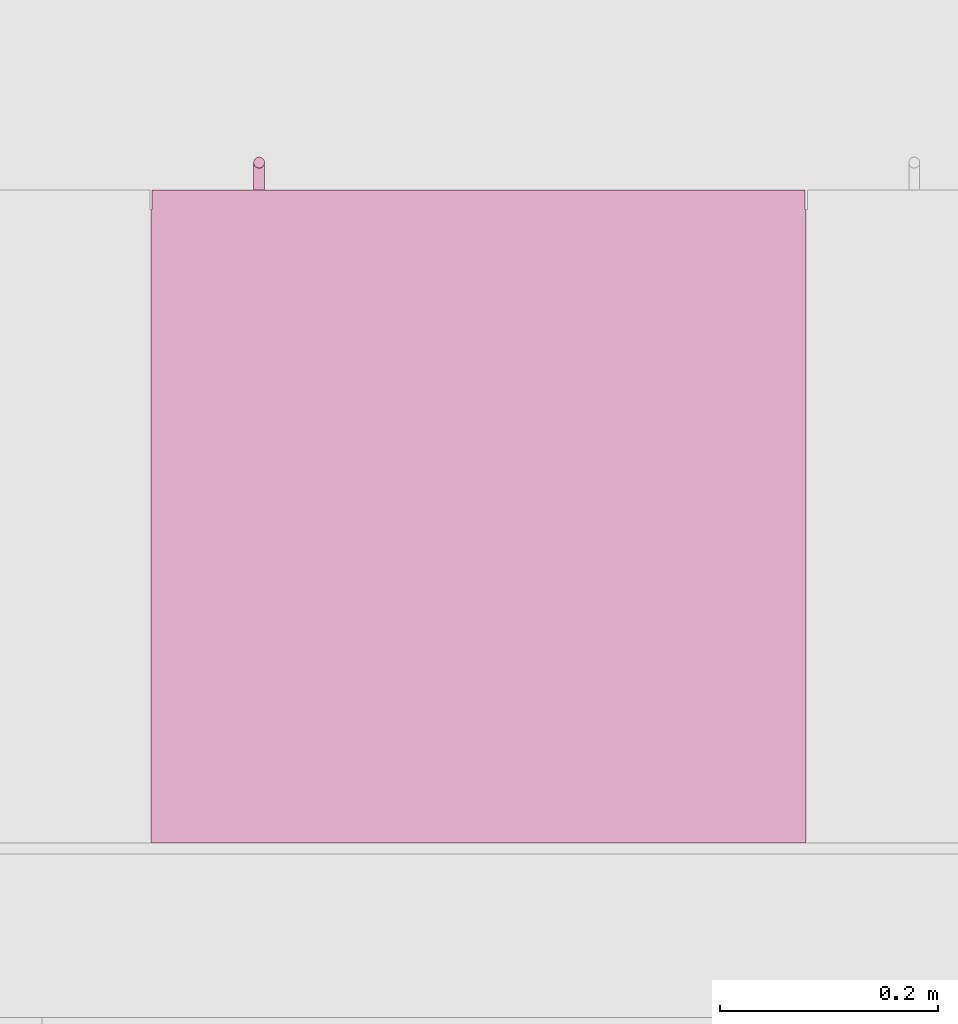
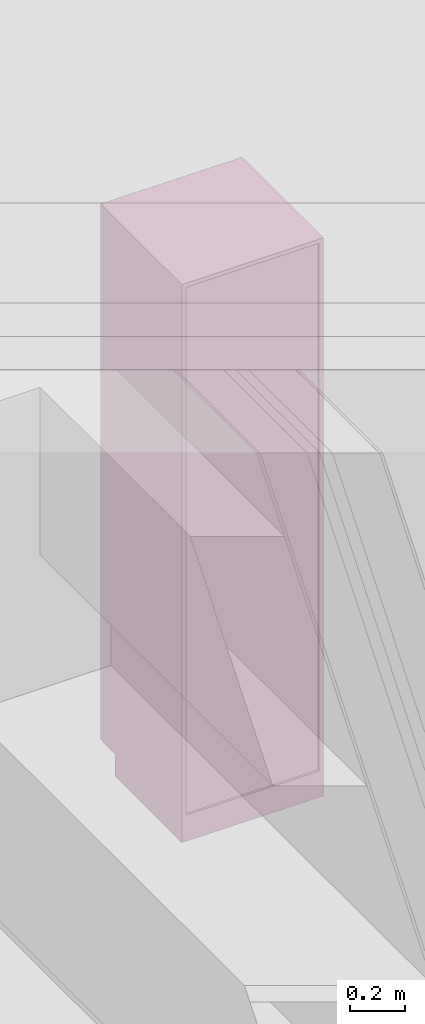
# One storey, part 31 of 36: 1 furniture element.
"""IFC4 building model written with IfcOpenShell, lengths in millimetres."""

import ifcopenshell
import ifcopenshell.guid

model = None  # the IFC model being written
_history = None  # IfcOwnerHistory: only IFC2X3 demands one
_inside = {}  # id of a spatial element -> (the spatial element, [elements in it])
_under = {}  # id of a project, library or spatial element -> (it, [spatial elements below it])
_declared = {}  # id of a project -> (the project, [libraries it declares])
_typed = {}  # id of a type object -> (the type object, [elements of that type])
_made_of = {}  # id of a material, layer set ... -> (it, [elements and type objects made of it])


def new_model(schema):
    """Start an empty IFC model of exactly this schema.

    Asked for "IFC4X3", IfcOpenShell would pick the latest addendum, in which some entities
    have other attributes; the version numbers below select the first issue.
    IFC2X3 requires an IfcOwnerHistory on every rooted entity: one is made here for all.
    """
    global model, _history
    if schema == "IFC4X3":
        model = ifcopenshell.file(schema_version=(4, 3, 0, 0))
    else:
        model = ifcopenshell.file(schema=schema)
    _inside.clear()
    _under.clear()
    _declared.clear()
    _typed.clear()
    _made_of.clear()
    _history = None
    if model.schema == "IFC2X3":
        org = make("IfcOrganization", Name="unknown")
        user = make(
            "IfcPersonAndOrganization",
            ThePerson=make("IfcPerson", FamilyName="unknown"),
            TheOrganization=org,
        )
        app = make(
            "IfcApplication",
            ApplicationDeveloper=org,
            Version="unknown",
            ApplicationFullName="unknown",
            ApplicationIdentifier="unknown",
        )
        _history = make(
            "IfcOwnerHistory",
            OwningUser=user,
            OwningApplication=app,
            ChangeAction="ADDED",
            CreationDate=0,
        )
    return model


def make(cls, **values):
    """One entity of the class cls with the attributes given. An attribute that is None is left unset."""
    return model.create_entity(
        cls, **{name: value for name, value in values.items() if value is not None}
    )


def entity(cls, *values):
    """Any entity or typed value of the class cls, its attributes in the order of the schema. None: left unset."""
    e = model.create_entity(cls)
    for i, value in enumerate(values):
        if value is not None:
            e[i] = value
    return e


def rooted(cls, **values):
    """An entity with a GlobalId (a new one), such as an element, a storey or a relation."""
    return make(cls, GlobalId=ifcopenshell.guid.new(), OwnerHistory=_history, **values)


def si_unit(unit_type, name, prefix=None):
    """IfcSIUnit, for example si_unit("LENGTHUNIT", "METRE", prefix="MILLI")."""
    return make("IfcSIUnit", UnitType=unit_type, Prefix=prefix, Name=name)


def converted_unit(unit_type, name, factor, base, dimensions=None, offset=None):
    """IfcConversionBasedUnit, such as the inch: factor (a typed value) times the base unit."""
    return make(
        "IfcConversionBasedUnit"
        if offset is None
        else "IfcConversionBasedUnitWithOffset",
        ConversionOffset=offset,
        Dimensions=None
        if dimensions is None
        else entity("IfcDimensionalExponents", *dimensions),
        UnitType=unit_type,
        Name=name,
        ConversionFactor=make(
            "IfcMeasureWithUnit", ValueComponent=factor, UnitComponent=base
        ),
    )


def derived_unit(unit_type, elements):
    """IfcDerivedUnit: a product of units, each with its exponent."""
    return make(
        "IfcDerivedUnit",
        Elements=[
            make("IfcDerivedUnitElement", Unit=unit, Exponent=power)
            for unit, power in elements
        ],
        UnitType=unit_type,
    )


def assignment(units):
    """IfcUnitAssignment: the units of a project."""
    return None if units is None else make("IfcUnitAssignment", Units=units)


def point(xyz):
    """IfcCartesianPoint."""
    return None if xyz is None else make("IfcCartesianPoint", Coordinates=xyz)


def direction(xyz):
    """IfcDirection."""
    return None if xyz is None else make("IfcDirection", DirectionRatios=xyz)


def frame(location, z_axis=None, x_axis=None):
    """IfcAxis2Placement3D, a coordinate frame: its origin and axes. An axis left out is left unset."""
    return make(
        "IfcAxis2Placement3D",
        Location=point(location),
        Axis=direction(z_axis),
        RefDirection=direction(x_axis),
    )


def origin_with_axes():
    """The frame at (0, 0, 0) with the z axis (0, 0, 1) and the x axis (1, 0, 0) written out."""
    return frame((0.0, 0.0, 0.0), z_axis=(0.0, 0.0, 1.0), x_axis=(1.0, 0.0, 0.0))


def place(relative_to, where):
    """IfcLocalPlacement: puts the frame where relative to a parent placement (None: the world)."""
    return make(
        "IfcLocalPlacement", PlacementRelTo=relative_to, RelativePlacement=where
    )


def context(
    kind, dimensions, precision=None, world=None, true_north=None, identifier=None
):
    """IfcGeometricRepresentationContext, for example the 3D "Model" context."""
    return make(
        "IfcGeometricRepresentationContext",
        ContextIdentifier=identifier,
        ContextType=kind,
        CoordinateSpaceDimension=dimensions,
        Precision=precision,
        WorldCoordinateSystem=world,
        TrueNorth=true_north,
    )


def subcontext(parent, identifier, kind, view, scale=None):
    """IfcGeometricRepresentationSubContext, for example "Body" below "Model"."""
    return make(
        "IfcGeometricRepresentationSubContext",
        ContextIdentifier=identifier,
        ContextType=kind,
        ParentContext=parent,
        TargetScale=scale,
        TargetView=view,
    )


def project(units=None, contexts=None):
    """IfcProject with its units and contexts."""
    return rooted(
        "IfcProject",
        Name="project",
        RepresentationContexts=contexts,
        UnitsInContext=assignment(units),
    )


def spatial(cls, under=None, at=None, **own):
    """A site, building, storey or space (cls), placed at a placement, below another one or the project."""
    s = rooted(cls, ObjectPlacement=at, **own)
    if under is not None:
        _under.setdefault(under.id(), (under, []))[1].append(s)
    return s


def point_list(points):
    """IfcCartesianPointList2D or 3D."""
    cls = (
        "IfcCartesianPointList2D" if len(points[0]) == 2 else "IfcCartesianPointList3D"
    )
    return make(cls, CoordList=points)


def polygons(points, faces, closed=None, point_numbers=None):
    """IfcPolygonalFaceSet: a face is its outer loop, then its inner loops; points numbered from 1."""
    made = []
    for loops in faces:
        if len(loops) == 1:
            made.append(make("IfcIndexedPolygonalFace", CoordIndex=loops[0]))
        else:
            made.append(
                make(
                    "IfcIndexedPolygonalFaceWithVoids",
                    CoordIndex=loops[0],
                    InnerCoordIndices=loops[1:],
                )
            )
    return make(
        "IfcPolygonalFaceSet",
        Coordinates=point_list(points),
        Closed=closed,
        Faces=made,
        PnIndex=point_numbers,
    )


def shape(context_of_items, identifier, shape_type, items):
    """IfcShapeRepresentation: the items that make up one representation, for example the "Body"."""
    return make(
        "IfcShapeRepresentation",
        ContextOfItems=context_of_items,
        RepresentationIdentifier=identifier,
        RepresentationType=shape_type,
        Items=items,
    )


def source(mapping_origin, context_of_items, identifier, shape_type, items):
    """IfcRepresentationMap: a shape defined once, which mapped items show again and again."""
    return make(
        "IfcRepresentationMap",
        MappingOrigin=mapping_origin,
        MappedRepresentation=shape(context_of_items, identifier, shape_type, items),
    )


def transform(
    local_origin,
    x_axis=None,
    y_axis=None,
    z_axis=None,
    scale=None,
    scale2=None,
    scale3=None,
    uniform=True,
):
    """IfcCartesianTransformationOperator3D, or its non-uniform kind. x_axis, y_axis, z_axis: its Axis1, 2, 3."""
    if uniform:
        return make(
            "IfcCartesianTransformationOperator3D",
            Axis1=direction(x_axis),
            Axis2=direction(y_axis),
            LocalOrigin=point(local_origin),
            Scale=scale,
            Axis3=direction(z_axis),
        )
    return make(
        "IfcCartesianTransformationOperator3DnonUniform",
        Axis1=direction(x_axis),
        Axis2=direction(y_axis),
        LocalOrigin=point(local_origin),
        Scale=scale,
        Axis3=direction(z_axis),
        Scale2=scale2,
        Scale3=scale3,
    )


def mapped(mapping_source, mapping_target):
    """IfcMappedItem: shows the shape of a source again, moved by a transform."""
    return make(
        "IfcMappedItem", MappingSource=mapping_source, MappingTarget=mapping_target
    )


def made_of(thing, what):
    """Note that an element or type object is made of a material, layer set ...; save() writes the relation."""
    if what is not None:
        _made_of.setdefault(what.id(), (what, []))[1].append(thing)
    return thing


def type_object(cls, material=None, **own):
    """A type object (cls), such as IfcWallType, which elements share."""
    return made_of(rooted(cls, **own), material)


def element(
    cls,
    number,
    at=None,
    inside=None,
    cuts=None,
    type_object=None,
    material=None,
    context=None,
    identifier="Body",
    shape_type=None,
    held_by="IfcProductDefinitionShape",
    body=None,
    shapes=None,
    **own,
):
    """One element of the class cls, such as IfcWall. Its Tag is "e" and its number.

    at: its placement. inside: the storey or other place that contains it. cuts: it is an
    opening in that element (IfcRelVoidsElement). A single representation is given by context,
    identifier, shape_type and body (its items); several are given by shapes. held_by: the class
    of the entity that holds the representations. save() writes the other relations.
    """
    e = rooted(cls, Tag="e%d" % number, ObjectPlacement=at, **own)
    if body is not None:
        shapes = [shape(context, identifier, shape_type, body)]
    if shapes is not None:
        e.Representation = make(held_by, Representations=shapes)
    if inside is not None:
        _inside.setdefault(inside.id(), (inside, []))[1].append(e)
    if cuts is not None:
        rooted(
            "IfcRelVoidsElement", RelatingBuildingElement=cuts, RelatedOpeningElement=e
        )
    if type_object is not None:
        _typed.setdefault(type_object.id(), (type_object, []))[1].append(e)
    return made_of(e, material)


def aggregate(whole, parts):
    """IfcRelAggregates: a whole, such as a stair, and the parts it consists of."""
    return rooted("IfcRelAggregates", RelatingObject=whole, RelatedObjects=parts)


def save(model, path):
    """Write the relations noted so far, then the file.

    IfcRelAggregates (storeys below a building ...), IfcRelContainedInSpatialStructure (elements
    in a storey), IfcRelDefinesByType, IfcRelAssociatesMaterial and IfcRelDeclares: one each for
    every whole, place, type object, material and project.
    """
    for whole, parts in _under.values():
        aggregate(whole, parts)
    for where, things in _inside.values():
        rooted(
            "IfcRelContainedInSpatialStructure",
            RelatedElements=things,
            RelatingStructure=where,
        )
    for kind, things in _typed.values():
        rooted("IfcRelDefinesByType", RelatedObjects=things, RelatingType=kind)
    for what, things in _made_of.values():
        rooted("IfcRelAssociatesMaterial", RelatedObjects=things, RelatingMaterial=what)
    for by, libraries in _declared.values():
        rooted("IfcRelDeclares", RelatingContext=by, RelatedDefinitions=libraries)
    model.write(path)


model = new_model("IFC4")

# Units and contexts
model_context = context("Model", 3, precision=0.01, world=origin_with_axes(), true_north=direction((0.0, 1.0)))
body_context = subcontext(model_context, "Body", "Model", "MODEL_VIEW")
ifc_project = project(units=[si_unit("LENGTHUNIT", "METRE", prefix="MILLI"), si_unit("AREAUNIT", "SQUARE_METRE"), si_unit("VOLUMEUNIT", "CUBIC_METRE"), converted_unit("PLANEANGLEUNIT", "DEGREE", entity("IfcPlaneAngleMeasure", 0.0174532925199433), si_unit("PLANEANGLEUNIT", "RADIAN"), dimensions=[0, 0, 0, 0, 0, 0, 0]), converted_unit("TIMEUNIT", "Year", entity("IfcTimeMeasure", 31557600.0), si_unit("TIMEUNIT", "SECOND"), dimensions=[0, 0, 1, 0, 0, 0, 0]), si_unit("MASSUNIT", "GRAM", prefix="KILO"), si_unit("THERMODYNAMICTEMPERATUREUNIT", "DEGREE_CELSIUS"), si_unit("LUMINOUSINTENSITYUNIT", "LUMEN"), si_unit("ENERGYUNIT", "JOULE", prefix="MEGA"), derived_unit("THERMALCONDUCTANCEUNIT", [(si_unit("POWERUNIT", "WATT"), 1), (si_unit("LENGTHUNIT", "METRE"), -1), (si_unit("THERMODYNAMICTEMPERATUREUNIT", "KELVIN"), -1)]), derived_unit("SPECIFICHEATCAPACITYUNIT", [(si_unit("ENERGYUNIT", "JOULE"), 1), (si_unit("MASSUNIT", "GRAM", prefix="KILO"), -1), (si_unit("THERMODYNAMICTEMPERATUREUNIT", "KELVIN"), -1)]), derived_unit("MASSDENSITYUNIT", [(si_unit("MASSUNIT", "GRAM", prefix="KILO"), 1), (si_unit("VOLUMEUNIT", "CUBIC_METRE"), -1)])], contexts=[model_context])

# Site, building, storey
site_placement = place(None, origin_with_axes())
site = spatial("IfcSite", under=ifc_project, at=site_placement, Name="Gelände", CompositionType="ELEMENT")
building_placement = place(site_placement, origin_with_axes())
building = spatial("IfcBuilding", under=site, at=building_placement, Name="Gebäude", CompositionType="ELEMENT")
storey_placement = place(building_placement, frame((0.0, 0.0, 8700.0), z_axis=(0.0, 0.0, 1.0), x_axis=(1.0, 0.0, 0.0)))
storey = spatial("IfcBuildingStorey", under=building, at=storey_placement, Name="Attika", CompositionType="ELEMENT", Elevation=8700.0)

# Furniture
furniture_type = type_object("IfcFurnitureType", Name="Stehender Schrank Block 27", AssemblyPlace="NOTDEFINED", PredefinedType="NOTDEFINED")
shared_shape = source(origin_with_axes(), body_context, "Body", "Tessellation", [
    polygons([(501.8682408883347, -597.9999999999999, 1352.799038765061), (502.7101007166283, -597.9999999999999, 1352.573463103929), (503.4999999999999, -597.9999999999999, 1352.205127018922), (504.2139380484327, -597.9999999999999, 1351.705222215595), (504.8302222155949, -597.9999999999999, 1351.088938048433), (505.3301270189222, -597.9999999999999, 1350.375), (505.6984631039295, -597.9999999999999, 1349.585100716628), (505.924038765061, -597.9999999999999, 1348.743240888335), (506.0, -597.9999999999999, 1347.875), (505.924038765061, -597.9999999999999, 1347.006759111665), (505.6984631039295, -597.9999999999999, 1346.164899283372), (505.3301270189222, -597.9999999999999, 1345.375), (504.8302222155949, -597.9999999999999, 1344.661061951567), (504.2139380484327, -597.9999999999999, 1344.044777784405), (503.4999999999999, -597.9999999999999, 1343.544872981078), (502.7101007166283, -597.9999999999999, 1343.176536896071), (501.8682408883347, -597.9999999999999, 1342.950961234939), (501.0, -597.9999999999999, 1342.875), (500.1317591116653, -597.9999999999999, 1342.950961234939), (499.2898992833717, -597.9999999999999, 1343.176536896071), (498.5, -597.9999999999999, 1343.544872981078), (497.7860619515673, -597.9999999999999, 1344.044777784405), (497.1697777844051, -597.9999999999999, 1344.661061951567), (496.6698729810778, -597.9999999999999, 1345.375), (496.3015368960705, -597.9999999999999, 1346.164899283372), (496.075961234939, -597.9999999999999, 1347.006759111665), (496.0, -597.9999999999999, 1347.875), (496.075961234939, -597.9999999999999, 1348.743240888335), (496.3015368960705, -597.9999999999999, 1349.585100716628), (496.6698729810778, -597.9999999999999, 1350.375), (497.1697777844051, -597.9999999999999, 1351.088938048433), (497.7860619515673, -597.9999999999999, 1351.705222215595), (498.5, -597.9999999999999, 1352.205127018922), (499.2898992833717, -597.9999999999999, 1352.573463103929), (500.1317591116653, -597.9999999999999, 1352.799038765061), (501.0, -597.9999999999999, 1352.875), (501.8682408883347, -622.9999999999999, 1352.799038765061), (502.7101007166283, -622.9999999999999, 1352.573463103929), (503.4999999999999, -622.9999999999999, 1352.205127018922), (504.2139380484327, -622.9999999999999, 1351.705222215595), (504.8302222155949, -622.9999999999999, 1351.088938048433), (505.3301270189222, -622.9999999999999, 1350.375), (505.6984631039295, -622.9999999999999, 1349.585100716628), (505.924038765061, -622.9999999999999, 1348.743240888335), (506.0, -622.9999999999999, 1347.875), (505.924038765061, -622.9999999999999, 1347.006759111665), (505.6984631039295, -622.9999999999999, 1346.164899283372), (505.3301270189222, -622.9999999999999, 1345.375), (504.8302222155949, -622.9999999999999, 1344.661061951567), (504.2139380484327, -622.9999999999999, 1344.044777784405), (503.4999999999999, -622.9999999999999, 1343.544872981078), (502.7101007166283, -622.9999999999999, 1343.176536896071), (501.8682408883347, -622.9999999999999, 1342.950961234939), (501.0, -622.9999999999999, 1342.875), (500.1317591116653, -622.9999999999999, 1342.950961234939), (499.2898992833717, -622.9999999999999, 1343.176536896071), (498.5, -622.9999999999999, 1343.544872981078), (497.7860619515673, -622.9999999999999, 1344.044777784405), (497.1697777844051, -622.9999999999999, 1344.661061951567), (496.6698729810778, -622.9999999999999, 1345.375), (496.3015368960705, -622.9999999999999, 1346.164899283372), (496.075961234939, -622.9999999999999, 1347.006759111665), (496.0, -622.9999999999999, 1347.875), (496.075961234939, -622.9999999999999, 1348.743240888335), (496.3015368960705, -622.9999999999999, 1349.585100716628), (496.6698729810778, -622.9999999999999, 1350.375), (497.1697777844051, -622.9999999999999, 1351.088938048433), (497.7860619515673, -622.9999999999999, 1351.705222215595), (498.5, -622.9999999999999, 1352.205127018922), (499.2898992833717, -622.9999999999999, 1352.573463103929), (500.1317591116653, -622.9999999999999, 1352.799038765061), (501.0, -622.9999999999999, 1352.875)], [[[1, 2, 3, 4, 5, 6, 7, 8, 9, 10, 11, 12, 13, 14, 15, 16, 17, 18, 19, 20, 21, 22, 23, 24, 25, 26, 27, 28, 29, 30, 31, 32, 33, 34, 35, 36]], [[2, 1, 37, 38]], [[3, 2, 38, 39]], [[4, 3, 39, 40]], [[5, 4, 40, 41]], [[6, 5, 41, 42]], [[7, 6, 42, 43]], [[8, 7, 43, 44]], [[9, 8, 44, 45]], [[10, 9, 45, 46]], [[11, 10, 46, 47]], [[12, 11, 47, 48]], [[13, 12, 48, 49]], [[14, 13, 49, 50]], [[15, 14, 50, 51]], [[16, 15, 51, 52]], [[17, 16, 52, 53]], [[18, 17, 53, 54]], [[19, 18, 54, 55]], [[20, 19, 55, 56]], [[21, 20, 56, 57]], [[22, 21, 57, 58]], [[23, 22, 58, 59]], [[24, 23, 59, 60]], [[25, 24, 60, 61]], [[26, 25, 61, 62]], [[27, 26, 62, 63]], [[28, 27, 63, 64]], [[29, 28, 64, 65]], [[30, 29, 65, 66]], [[31, 30, 66, 67]], [[32, 31, 67, 68]], [[33, 32, 68, 69]], [[34, 33, 69, 70]], [[35, 34, 70, 71]], [[36, 35, 71, 72]], [[1, 36, 72, 37]], [[37, 72, 71, 70, 69, 68, 67, 66, 65, 64, 63, 62, 61, 60, 59, 58, 57, 56, 55, 54, 53, 52, 51, 50, 49, 48, 47, 46, 45, 44, 43, 42, 41, 40, 39, 38]]], closed=True),
    polygons([(501.8682408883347, -597.9999999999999, 1249.200961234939), (501.0, -597.9999999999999, 1249.125), (500.1317591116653, -597.9999999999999, 1249.200961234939), (499.2898992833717, -597.9999999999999, 1249.426536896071), (498.5, -597.9999999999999, 1249.794872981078), (497.7860619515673, -597.9999999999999, 1250.294777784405), (497.1697777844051, -597.9999999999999, 1250.911061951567), (496.6698729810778, -597.9999999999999, 1251.625), (496.3015368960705, -597.9999999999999, 1252.414899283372), (496.075961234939, -597.9999999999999, 1253.256759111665), (496.0, -597.9999999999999, 1254.125), (496.075961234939, -597.9999999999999, 1254.993240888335), (496.3015368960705, -597.9999999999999, 1255.835100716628), (496.6698729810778, -597.9999999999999, 1256.625), (497.1697777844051, -597.9999999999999, 1257.338938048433), (497.7860619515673, -597.9999999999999, 1257.955222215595), (498.5, -597.9999999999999, 1258.455127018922), (499.2898992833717, -597.9999999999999, 1258.823463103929), (500.1317591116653, -597.9999999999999, 1259.049038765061), (501.0, -597.9999999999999, 1259.125), (501.8682408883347, -597.9999999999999, 1259.049038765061), (502.7101007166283, -597.9999999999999, 1258.823463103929), (503.4999999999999, -597.9999999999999, 1258.455127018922), (504.2139380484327, -597.9999999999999, 1257.955222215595), (504.8302222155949, -597.9999999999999, 1257.338938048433), (505.3301270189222, -597.9999999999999, 1256.625), (505.6984631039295, -597.9999999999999, 1255.835100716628), (505.924038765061, -597.9999999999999, 1254.993240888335), (506.0, -597.9999999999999, 1254.125), (505.924038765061, -597.9999999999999, 1253.256759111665), (505.6984631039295, -597.9999999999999, 1252.414899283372), (505.3301270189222, -597.9999999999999, 1251.625), (504.8302222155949, -597.9999999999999, 1250.911061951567), (504.2139380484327, -597.9999999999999, 1250.294777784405), (503.4999999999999, -597.9999999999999, 1249.794872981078), (502.7101007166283, -597.9999999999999, 1249.426536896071), (501.8682408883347, -622.9999999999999, 1249.200961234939), (501.0, -622.9999999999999, 1249.125), (500.1317591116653, -622.9999999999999, 1249.200961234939), (499.2898992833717, -622.9999999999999, 1249.426536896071), (498.5, -622.9999999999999, 1249.794872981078), (497.7860619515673, -622.9999999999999, 1250.294777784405), (497.1697777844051, -622.9999999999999, 1250.911061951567), (496.6698729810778, -622.9999999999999, 1251.625), (496.3015368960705, -622.9999999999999, 1252.414899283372), (496.075961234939, -622.9999999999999, 1253.256759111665), (496.0, -622.9999999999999, 1254.125), (496.075961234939, -622.9999999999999, 1254.993240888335), (496.3015368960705, -622.9999999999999, 1255.835100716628), (496.6698729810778, -622.9999999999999, 1256.625), (497.1697777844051, -622.9999999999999, 1257.338938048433), (497.7860619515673, -622.9999999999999, 1257.955222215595), (498.5, -622.9999999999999, 1258.455127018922), (499.2898992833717, -622.9999999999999, 1258.823463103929), (500.1317591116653, -622.9999999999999, 1259.049038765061), (501.0, -622.9999999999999, 1259.125), (501.8682408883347, -622.9999999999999, 1259.049038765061), (502.7101007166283, -622.9999999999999, 1258.823463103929), (503.4999999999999, -622.9999999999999, 1258.455127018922), (504.2139380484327, -622.9999999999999, 1257.955222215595), (504.8302222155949, -622.9999999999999, 1257.338938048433), (505.3301270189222, -622.9999999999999, 1256.625), (505.6984631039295, -622.9999999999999, 1255.835100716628), (505.924038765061, -622.9999999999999, 1254.993240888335), (506.0, -622.9999999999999, 1254.125), (505.924038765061, -622.9999999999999, 1253.256759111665), (505.6984631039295, -622.9999999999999, 1252.414899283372), (505.3301270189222, -622.9999999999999, 1251.625), (504.8302222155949, -622.9999999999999, 1250.911061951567), (504.2139380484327, -622.9999999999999, 1250.294777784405), (503.4999999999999, -622.9999999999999, 1249.794872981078), (502.7101007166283, -622.9999999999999, 1249.426536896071)], [[[1, 2, 3, 4, 5, 6, 7, 8, 9, 10, 11, 12, 13, 14, 15, 16, 17, 18, 19, 20, 21, 22, 23, 24, 25, 26, 27, 28, 29, 30, 31, 32, 33, 34, 35, 36]], [[1, 37, 38, 2]], [[2, 38, 39, 3]], [[3, 39, 40, 4]], [[4, 40, 41, 5]], [[5, 41, 42, 6]], [[6, 42, 43, 7]], [[7, 43, 44, 8]], [[8, 44, 45, 9]], [[9, 45, 46, 10]], [[10, 46, 47, 11]], [[11, 47, 48, 12]], [[12, 48, 49, 13]], [[13, 49, 50, 14]], [[14, 50, 51, 15]], [[15, 51, 52, 16]], [[16, 52, 53, 17]], [[17, 53, 54, 18]], [[18, 54, 55, 19]], [[19, 55, 56, 20]], [[20, 56, 57, 21]], [[21, 57, 58, 22]], [[22, 58, 59, 23]], [[23, 59, 60, 24]], [[24, 60, 61, 25]], [[25, 61, 62, 26]], [[26, 62, 63, 27]], [[27, 63, 64, 28]], [[28, 64, 65, 29]], [[29, 65, 66, 30]], [[30, 66, 67, 31]], [[31, 67, 68, 32]], [[32, 68, 69, 33]], [[33, 69, 70, 34]], [[34, 70, 71, 35]], [[35, 71, 72, 36]], [[36, 72, 37, 1]], [[37, 72, 71, 70, 69, 68, 67, 66, 65, 64, 63, 62, 61, 60, 59, 58, 57, 56, 55, 54, 53, 52, 51, 50, 49, 48, 47, 46, 45, 44, 43, 42, 41, 40, 39, 38]]], closed=True),
    polygons([(501.8682408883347, -618.0759612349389, 1226.0), (502.7101007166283, -618.3015368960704, 1226.0), (503.4999999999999, -618.6698729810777, 1226.0), (504.2139380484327, -619.1697777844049, 1226.0), (504.8302222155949, -619.7860619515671, 1226.0), (505.3301270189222, -620.4999999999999, 1226.0), (505.6984631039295, -621.2898992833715, 1226.0), (505.924038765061, -622.1317591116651, 1226.0), (506.0, -622.9999999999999, 1226.0), (505.924038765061, -623.8682408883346, 1226.0), (505.6984631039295, -624.7101007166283, 1226.0), (505.3301270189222, -625.4999999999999, 1226.0), (504.8302222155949, -626.2139380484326, 1226.0), (504.2139380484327, -626.8302222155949, 1226.0), (503.4999999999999, -627.3301270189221, 1226.0), (502.7101007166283, -627.6984631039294, 1226.0), (501.8682408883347, -627.924038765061, 1226.0), (501.0, -627.9999999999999, 1226.0), (500.1317591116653, -627.924038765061, 1226.0), (499.2898992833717, -627.6984631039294, 1226.0), (498.5, -627.3301270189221, 1226.0), (497.7860619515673, -626.8302222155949, 1226.0), (497.1697777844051, -626.2139380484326, 1226.0), (496.6698729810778, -625.4999999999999, 1226.0), (496.3015368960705, -624.7101007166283, 1226.0), (496.075961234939, -623.8682408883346, 1226.0), (496.0, -622.9999999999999, 1226.0), (496.075961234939, -622.1317591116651, 1226.0), (496.3015368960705, -621.2898992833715, 1226.0), (496.6698729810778, -620.4999999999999, 1226.0), (497.1697777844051, -619.7860619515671, 1226.0), (497.7860619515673, -619.1697777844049, 1226.0), (498.5, -618.6698729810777, 1226.0), (499.2898992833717, -618.3015368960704, 1226.0), (500.1317591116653, -618.0759612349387, 1226.0), (501.0, -617.9999999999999, 1226.0), (501.8682408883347, -618.0759612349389, 1376.0), (502.7101007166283, -618.3015368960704, 1376.0), (503.5000000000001, -618.6698729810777, 1376.0), (504.2139380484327, -619.1697777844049, 1376.0), (504.8302222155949, -619.7860619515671, 1376.0), (505.3301270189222, -620.4999999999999, 1376.0), (505.6984631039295, -621.2898992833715, 1376.0), (505.9240387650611, -622.1317591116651, 1376.0), (506.0, -622.9999999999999, 1376.0), (505.9240387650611, -623.8682408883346, 1376.0), (505.6984631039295, -624.7101007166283, 1376.0), (505.3301270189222, -625.4999999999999, 1376.0), (504.8302222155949, -626.2139380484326, 1376.0), (504.2139380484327, -626.8302222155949, 1376.0), (503.5000000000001, -627.3301270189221, 1376.0), (502.7101007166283, -627.6984631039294, 1376.0), (501.8682408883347, -627.924038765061, 1376.0), (501.0, -627.9999999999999, 1376.0), (500.1317591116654, -627.924038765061, 1376.0), (499.2898992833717, -627.6984631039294, 1376.0), (498.5, -627.3301270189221, 1376.0), (497.7860619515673, -626.8302222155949, 1376.0), (497.1697777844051, -626.2139380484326, 1376.0), (496.6698729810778, -625.4999999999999, 1376.0), (496.3015368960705, -624.7101007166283, 1376.0), (496.075961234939, -623.8682408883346, 1376.0), (496.0, -622.9999999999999, 1376.0), (496.075961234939, -622.1317591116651, 1376.0), (496.3015368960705, -621.2898992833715, 1376.0), (496.6698729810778, -620.4999999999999, 1376.0), (497.1697777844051, -619.7860619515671, 1376.0), (497.7860619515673, -619.1697777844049, 1376.0), (498.5, -618.6698729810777, 1376.0), (499.2898992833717, -618.3015368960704, 1376.0), (500.1317591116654, -618.0759612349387, 1376.0), (501.0, -617.9999999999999, 1376.0)], [[[1, 2, 3, 4, 5, 6, 7, 8, 9, 10, 11, 12, 13, 14, 15, 16, 17, 18, 19, 20, 21, 22, 23, 24, 25, 26, 27, 28, 29, 30, 31, 32, 33, 34, 35, 36]], [[2, 1, 37, 38]], [[3, 2, 38, 39]], [[4, 3, 39, 40]], [[5, 4, 40, 41]], [[6, 5, 41, 42]], [[7, 6, 42, 43]], [[8, 7, 43, 44]], [[9, 8, 44, 45]], [[10, 9, 45, 46]], [[11, 10, 46, 47]], [[12, 11, 47, 48]], [[13, 12, 48, 49]], [[14, 13, 49, 50]], [[15, 14, 50, 51]], [[16, 15, 51, 52]], [[17, 16, 52, 53]], [[18, 17, 53, 54]], [[19, 18, 54, 55]], [[20, 19, 55, 56]], [[21, 20, 56, 57]], [[22, 21, 57, 58]], [[23, 22, 58, 59]], [[24, 23, 59, 60]], [[25, 24, 60, 61]], [[26, 25, 61, 62]], [[27, 26, 62, 63]], [[28, 27, 63, 64]], [[29, 28, 64, 65]], [[30, 29, 65, 66]], [[31, 30, 66, 67]], [[32, 31, 67, 68]], [[33, 32, 68, 69]], [[34, 33, 69, 70]], [[35, 34, 70, 71]], [[36, 35, 71, 72]], [[1, 36, 72, 37]], [[37, 72, 71, 70, 69, 68, 67, 66, 65, 64, 63, 62, 61, 60, 59, 58, 57, 56, 55, 54, 53, 52, 51, 50, 49, 48, 47, 46, 45, 44, 43, 42, 41, 40, 39, 38]]], closed=True),
    polygons([(1.0, -580.0, 101.0), (599.0, -580.0, 101.0), (599.0, -598.0, 101.0), (1.0, -598.0, 101.0), (1.0, -579.9999999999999, 2499.0), (599.0, -579.9999999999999, 2499.0), (599.0, -597.9999999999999, 2499.0), (1.0, -597.9999999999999, 2499.0)], [[[1, 2, 3, 4]], [[1, 5, 6, 2]], [[2, 6, 7, 3]], [[4, 3, 7, 8]], [[5, 1, 4, 8]], [[6, 5, 8, 7]]], closed=True),
    polygons([(18.0, -580.0, 100.0), (582.0, -580.0, 100.0), (582.0, -580.0, 118.0), (18.0, -580.0, 118.0), (18.0, 0.0, 100.0), (582.0, 0.0, 100.0), (582.0, 0.0, 118.0), (18.0, 0.0, 118.0)], [[[1, 2, 3, 4]], [[1, 5, 6, 2]], [[2, 6, 7, 3]], [[4, 3, 7, 8]], [[5, 1, 4, 8]], [[6, 5, 8, 7]]], closed=True),
    polygons([(18.0, -580.0, 2482.0), (582.0, -580.0, 2482.0), (582.0, -580.0, 2500.0), (18.0, -580.0, 2500.0), (18.0, 0.0, 2482.0), (582.0, 0.0, 2482.0), (582.0, 0.0, 2500.0), (18.0, 0.0, 2500.0)], [[[1, 2, 3, 4]], [[1, 5, 6, 2]], [[2, 6, 7, 3]], [[4, 3, 7, 8]], [[5, 1, 4, 8]], [[6, 5, 8, 7]]], closed=True),
    polygons([(0.0, 0.0, 100.0), (0.0, -580.0, 100.0), (0.0, -580.0, 2500.0), (0.0, 0.0, 2500.0), (18.0, 0.0, 100.0), (18.0, -580.0, 100.0), (18.0, -580.0, 2500.0), (18.0, 0.0, 2500.0)], [[[1, 2, 3, 4]], [[1, 5, 6, 2]], [[2, 6, 7, 3]], [[4, 3, 7, 8]], [[5, 1, 4, 8]], [[6, 5, 8, 7]]], closed=True),
    polygons([(600.0, -580.0, 100.0), (600.0, 0.0, 100.0), (600.0, 0.0, 2500.0), (600.0, -580.0, 2500.0), (582.0, -580.0, 100.0), (582.0, 0.0, 100.0), (582.0, 0.0, 2500.0), (582.0, -580.0, 2500.0)], [[[1, 2, 3, 4]], [[1, 5, 6, 2]], [[2, 6, 7, 3]], [[4, 3, 7, 8]], [[5, 1, 4, 8]], [[6, 5, 8, 7]]], closed=True),
    polygons([(582.0, -9.0, 118.0), (18.00000000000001, -9.0, 118.0), (18.00000000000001, -9.0, 2482.0), (582.0, -9.0, 2482.0), (582.0, -18.0, 118.0), (18.00000000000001, -18.0, 118.0), (18.00000000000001, -18.0, 2482.0), (582.0, -18.0, 2482.0)], [[[1, 2, 3, 4]], [[1, 5, 6, 2]], [[2, 6, 7, 3]], [[4, 3, 7, 8]], [[5, 1, 4, 8]], [[6, 5, 8, 7]]], closed=True),
    polygons([(0.0, -490.0, 0.0), (600.0, -490.0, 0.0), (600.0, -490.0, 100.0), (0.0, -490.0, 100.0), (0.0, 0.0, 0.0), (600.0, 0.0, 0.0), (600.0, 0.0, 100.0), (0.0, 0.0, 100.0)], [[[1, 2, 3, 4]], [[1, 5, 6, 2]], [[2, 6, 7, 3]], [[4, 3, 7, 8]], [[5, 1, 4, 8]], [[6, 5, 8, 7]]], closed=True),
])
furniture_placement = place(storey_placement, frame((8928.997444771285, 34847.59728131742, 150.0000000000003), z_axis=(0.0, 0.0, 1.0), x_axis=(-1.0, 0.0, 0.0)))
element("IfcFurniture", 1, at=furniture_placement, inside=storey, type_object=furniture_type, Name="Möbel-021", PredefinedType="NOTDEFINED", context=body_context, shape_type="MappedRepresentation", body=[
    mapped(shared_shape, transform((0.0, 0.0, 0.0))),
])

save(model, "model.ifc")
